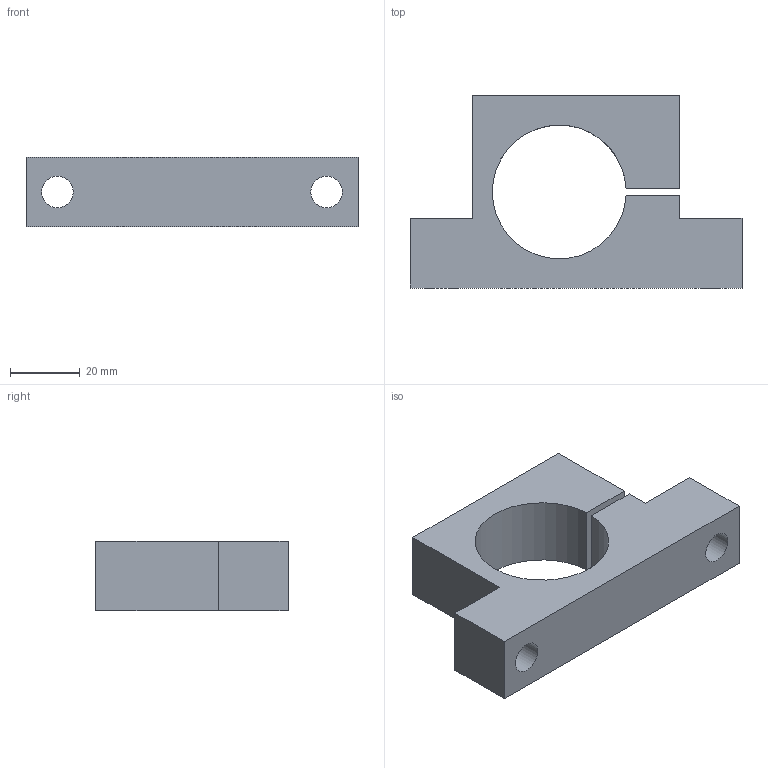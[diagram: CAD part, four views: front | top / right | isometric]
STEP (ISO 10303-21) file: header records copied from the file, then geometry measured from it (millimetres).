
FILE_DESCRIPTION(/* description */ (''),/* implementation_level */ '2;1');
FILE_NAME(/* name */ 'C:\Users\Jefferson\Desktop\Biblioteca Pro Nitro 2024\Flanges\PNB-57-XXX\PNB-57-038.stp',/* time_stamp */ '2024-01-29T10:06:23-03:00',/* author */ ('Jefferson'),/* organization */ (''),/* preprocessor_version */ 'ST-DEVELOPER v18.1',/* originating_system */ 'Autodesk Inventor 2021',/* authorisation */ '');
FILE_SCHEMA (('AUTOMOTIVE_DESIGN { 1 0 10303 214 3 1 1 }'));
Length unit declared in the file: millimetre
Products named in the file (1): PNB-57-038
Bounding box: 95 x 55 x 20 mm (x, y, z)
Volume: 51382.7 mm3; surface area: 16292.8 mm2
Topology: 1 solids, 1 shells, 182 faces, 495 edges, 332 vertices
Faces by surface type: plane 90, bspline 85, cylinder 6, cone 1
Full cylindrical faces by diameter (mm): 4.917 x1, 6.5 x1, 9 x2, 11 x1
Entity records: 6204 total; most frequent: CARTESIAN_POINT 2114, ORIENTED_EDGE 988, DIRECTION 539, EDGE_CURVE 494, VERTEX_POINT 332, LINE 305, VECTOR 305, EDGE_LOOP 206
